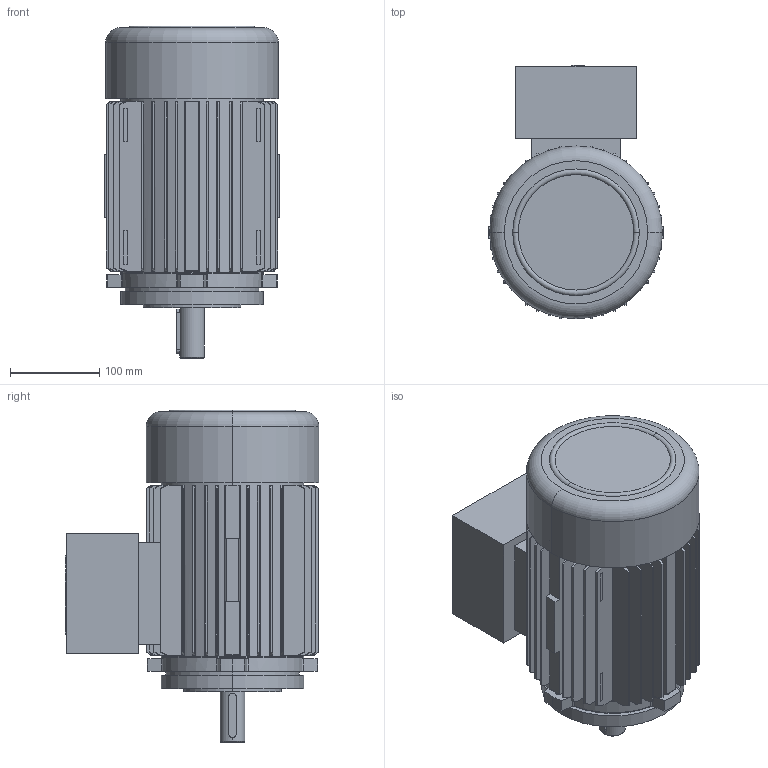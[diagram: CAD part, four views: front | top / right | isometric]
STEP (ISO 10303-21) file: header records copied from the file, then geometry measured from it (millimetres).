
FILE_DESCRIPTION (( 'STEP AP214' ), '1' );
FILE_NAME ('20.17500-C 5AT 100 B14_small Exde STANDK.STEP', '2018-05-08T06:12:42', ( '' ), ( '' ), 'SwSTEP 2.0', 'SolidWorks 2017', '' );
FILE_SCHEMA (( 'AUTOMOTIVE_DESIGN' ));
Length unit declared in the file: millimetre
Products named in the file (1): 20.17500-C 5AT 100 B14_small Exde STANDK
Bounding box: 197.5 x 285 x 372.99 mm (x, y, z)
Volume: 4637760.1 mm3; surface area: 825143.7 mm2
Topology: 3 solids, 3 shells, 683 faces, 1753 edges, 1140 vertices
Faces by surface type: plane 375, cylinder 157, cone 143, torus 8
Entity records: 26615 total; most frequent: CARTESIAN_POINT 4281, DIRECTION 3459, ORIENTED_EDGE 3458, EDGE_CURVE 1729, AXIS2_PLACEMENT_3D 1270, VERTEX_POINT 1140, VECTOR 919, LINE 919
